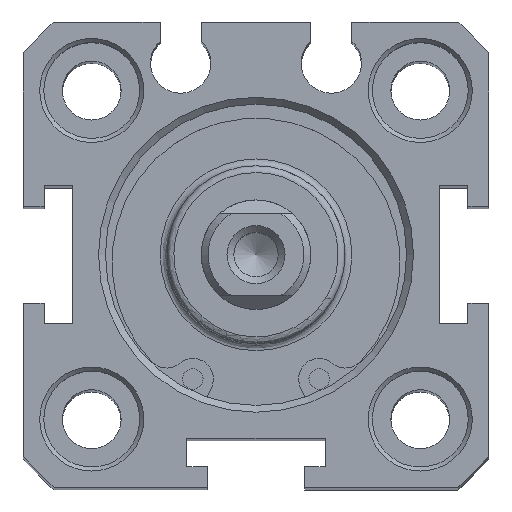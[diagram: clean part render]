
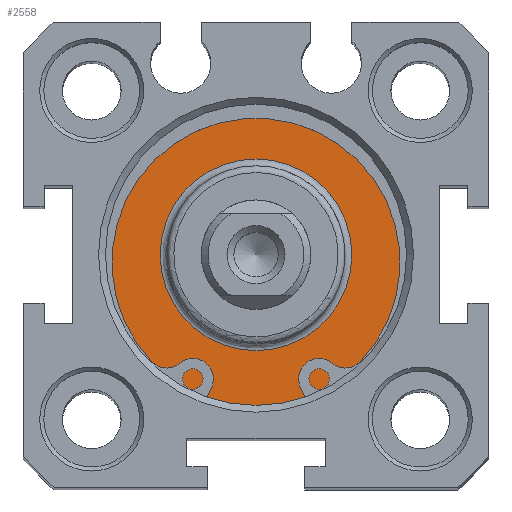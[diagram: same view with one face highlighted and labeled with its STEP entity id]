
A CAD part, top view. The second image highlights one B-rep face of the part: STEP entity #2558.
In plain terms, the highlighted planar face has unit normal (0, 0, 1).
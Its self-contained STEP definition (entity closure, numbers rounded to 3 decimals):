
#2507=CARTESIAN_POINT('',(0.24,8.683,101.8));
#2508=VERTEX_POINT('',#2507);
#2509=CARTESIAN_POINT('',(0.24,1.683,101.8));
#2510=DIRECTION('',(0.0,0.0,1.0));
#2511=DIRECTION('',(0.0,-1.0,0.0));
#2512=AXIS2_PLACEMENT_3D('',#2509,#2510,#2511);
#2513=CIRCLE('',#2512,7.);
#2514=EDGE_CURVE('',#2508,#2508,#2513,.T.);
#2539=CARTESIAN_POINT('',(0.24,10.433,101.8));
#2540=DIRECTION('',(0.0,0.0,1.0));
#2541=DIRECTION('',(1.0,0.0,0.0));
#2542=AXIS2_PLACEMENT_3D('',#2539,#2540,#2541);
#2543=PLANE('',#2542);
#2544=CARTESIAN_POINT('',(0.24,12.683,101.8));
#2545=VERTEX_POINT('',#2544);
#2546=CARTESIAN_POINT('',(0.24,1.683,101.8));
#2547=DIRECTION('',(0.0,0.0,-1.0));
#2548=DIRECTION('',(0.0,1.0,0.0));
#2549=AXIS2_PLACEMENT_3D('',#2546,#2547,#2548);
#2550=CIRCLE('',#2549,11.);
#2551=EDGE_CURVE('',#2545,#2545,#2550,.T.);
#2552=ORIENTED_EDGE('',*,*,#2551,.F.);
#2553=EDGE_LOOP('',(#2552));
#2554=FACE_OUTER_BOUND('',#2553,.T.);
#2555=ORIENTED_EDGE('',*,*,#2514,.F.);
#2556=EDGE_LOOP('',(#2555));
#2557=FACE_BOUND('',#2556,.T.);
#2558=ADVANCED_FACE('',(#2554,#2557),#2543,.T.);
